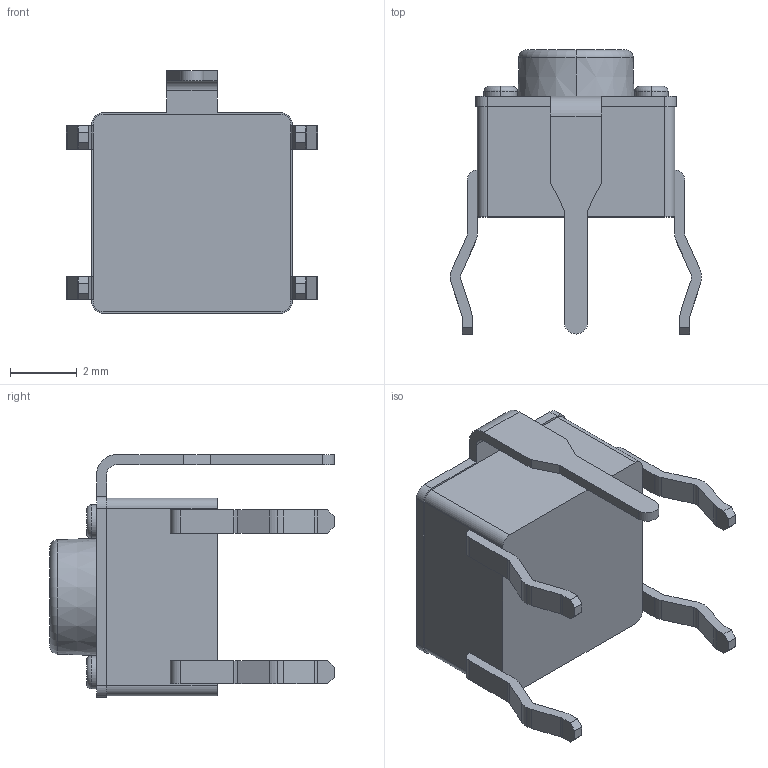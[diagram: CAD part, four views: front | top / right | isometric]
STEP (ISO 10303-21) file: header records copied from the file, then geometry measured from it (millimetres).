
FILE_DESCRIPTION (( 'STEP AP214' ), '1' );
FILE_NAME ('PTS645S50.STEP', '2011-02-01T05:54:28', ( 'vpeshkov' ), ( 'cad-design.ru' ), 'SwSTEP 2.0', 'SolidWorks 2009', '' );
FILE_SCHEMA (( 'AUTOMOTIVE_DESIGN' ));
Length unit declared in the file: millimetre
Products named in the file (1): PTS645S50
Bounding box: 7.5 x 8.5 x 7.25 mm (x, y, z)
Volume: 145.9 mm3; surface area: 226 mm2
Topology: 1 solids, 1 shells, 140 faces, 378 edges, 246 vertices
Faces by surface type: plane 77, cylinder 51, torus 10, cone 2
Entity records: 4812 total; most frequent: DIRECTION 786, CARTESIAN_POINT 765, ORIENTED_EDGE 756, EDGE_CURVE 378, AXIS2_PLACEMENT_3D 267, VECTOR 252, LINE 252, VERTEX_POINT 246
